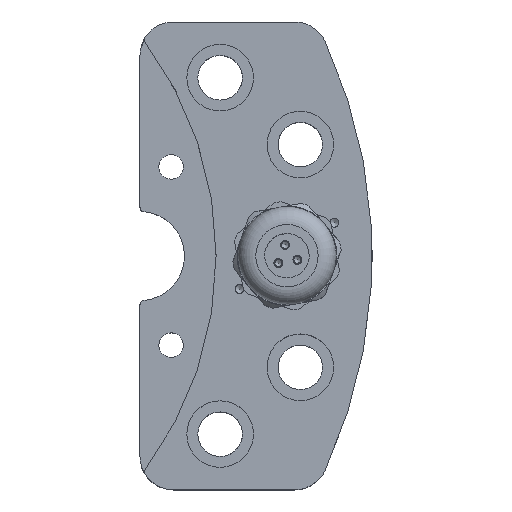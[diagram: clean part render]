
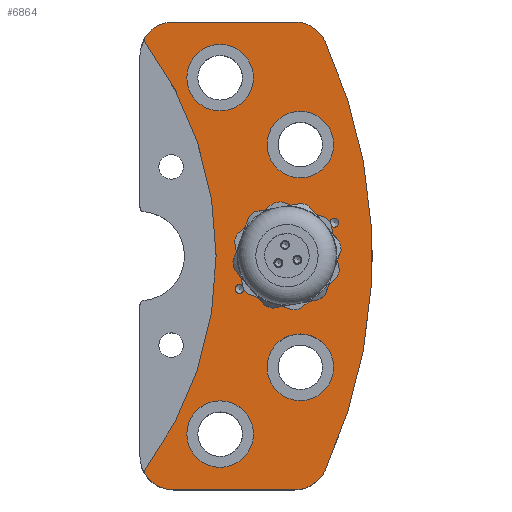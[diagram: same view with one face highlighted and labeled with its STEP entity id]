
A CAD part, top view. The second image highlights one B-rep face of the part: STEP entity #6864.
In plain terms, the highlighted planar face has unit normal (0, 0, 1).
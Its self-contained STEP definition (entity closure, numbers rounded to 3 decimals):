
#129=FACE_BOUND('',#1121,.T.);
#130=FACE_BOUND('',#1122,.T.);
#131=FACE_BOUND('',#1123,.T.);
#132=FACE_BOUND('',#1124,.T.);
#133=FACE_BOUND('',#1125,.T.);
#134=FACE_BOUND('',#1126,.T.);
#135=FACE_BOUND('',#1127,.T.);
#273=PLANE('',#7659);
#706=FACE_OUTER_BOUND('',#1120,.T.);
#1120=EDGE_LOOP('',(#5792,#5793,#5794,#5795,#5796,#5797,#5798,#5799,#5800,
#5801));
#1121=EDGE_LOOP('',(#5802,#5803));
#1122=EDGE_LOOP('',(#5804,#5805));
#1123=EDGE_LOOP('',(#5806,#5807));
#1124=EDGE_LOOP('',(#5808,#5809));
#1125=EDGE_LOOP('',(#5810,#5811));
#1126=EDGE_LOOP('',(#5812,#5813));
#1127=EDGE_LOOP('',(#5814));
#1583=CIRCLE('',#7623,1.007);
#1584=CIRCLE('',#7624,1.007);
#1587=CIRCLE('',#7629,1.007);
#1588=CIRCLE('',#7630,1.007);
#1606=CIRCLE('',#7657,9.55);
#1607=CIRCLE('',#7660,0.5);
#1608=CIRCLE('',#7661,7.5);
#1609=CIRCLE('',#7662,7.5);
#1610=CIRCLE('',#7663,115.1);
#1611=CIRCLE('',#7664,7.5);
#1612=CIRCLE('',#7665,7.5);
#1613=CIRCLE('',#7666,0.5);
#1614=CIRCLE('',#7667,80.1);
#1615=CIRCLE('',#7668,7.475);
#1616=CIRCLE('',#7669,7.475);
#1617=CIRCLE('',#7670,7.475);
#1618=CIRCLE('',#7671,7.475);
#1619=CIRCLE('',#7672,7.475);
#1620=CIRCLE('',#7673,7.475);
#1621=CIRCLE('',#7674,7.475);
#1622=CIRCLE('',#7675,7.475);
#2032=LINE('',#13065,#2436);
#2033=LINE('',#13073,#2437);
#2436=VECTOR('',#9597,10.);
#2437=VECTOR('',#9604,10.);
#3024=VERTEX_POINT('',#12981);
#3025=VERTEX_POINT('',#12982);
#3029=VERTEX_POINT('',#12994);
#3030=VERTEX_POINT('',#12995);
#3051=VERTEX_POINT('',#13053);
#3052=VERTEX_POINT('',#13059);
#3053=VERTEX_POINT('',#13060);
#3054=VERTEX_POINT('',#13062);
#3055=VERTEX_POINT('',#13064);
#3056=VERTEX_POINT('',#13066);
#3057=VERTEX_POINT('',#13068);
#3058=VERTEX_POINT('',#13070);
#3059=VERTEX_POINT('',#13072);
#3060=VERTEX_POINT('',#13074);
#3061=VERTEX_POINT('',#13076);
#3062=VERTEX_POINT('',#13079);
#3063=VERTEX_POINT('',#13080);
#3064=VERTEX_POINT('',#13083);
#3065=VERTEX_POINT('',#13084);
#3066=VERTEX_POINT('',#13087);
#3067=VERTEX_POINT('',#13088);
#3068=VERTEX_POINT('',#13091);
#3069=VERTEX_POINT('',#13092);
#3954=EDGE_CURVE('',#3024,#3025,#1583,.T.);
#3955=EDGE_CURVE('',#3025,#3024,#1584,.T.);
#3960=EDGE_CURVE('',#3029,#3030,#1587,.T.);
#3961=EDGE_CURVE('',#3030,#3029,#1588,.T.);
#3988=EDGE_CURVE('',#3051,#3051,#1606,.T.);
#3991=EDGE_CURVE('',#3052,#3053,#1607,.T.);
#3992=EDGE_CURVE('',#3054,#3052,#1608,.T.);
#3993=EDGE_CURVE('',#3055,#3054,#2032,.T.);
#3994=EDGE_CURVE('',#3056,#3055,#1609,.T.);
#3995=EDGE_CURVE('',#3057,#3056,#1610,.T.);
#3996=EDGE_CURVE('',#3058,#3057,#1611,.T.);
#3997=EDGE_CURVE('',#3059,#3058,#2033,.T.);
#3998=EDGE_CURVE('',#3060,#3059,#1612,.T.);
#3999=EDGE_CURVE('',#3061,#3060,#1613,.T.);
#4000=EDGE_CURVE('',#3061,#3053,#1614,.T.);
#4001=EDGE_CURVE('',#3062,#3063,#1615,.T.);
#4002=EDGE_CURVE('',#3063,#3062,#1616,.T.);
#4003=EDGE_CURVE('',#3064,#3065,#1617,.T.);
#4004=EDGE_CURVE('',#3065,#3064,#1618,.T.);
#4005=EDGE_CURVE('',#3066,#3067,#1619,.T.);
#4006=EDGE_CURVE('',#3067,#3066,#1620,.T.);
#4007=EDGE_CURVE('',#3068,#3069,#1621,.T.);
#4008=EDGE_CURVE('',#3069,#3068,#1622,.T.);
#5792=ORIENTED_EDGE('',*,*,#3991,.F.);
#5793=ORIENTED_EDGE('',*,*,#3992,.F.);
#5794=ORIENTED_EDGE('',*,*,#3993,.F.);
#5795=ORIENTED_EDGE('',*,*,#3994,.F.);
#5796=ORIENTED_EDGE('',*,*,#3995,.F.);
#5797=ORIENTED_EDGE('',*,*,#3996,.F.);
#5798=ORIENTED_EDGE('',*,*,#3997,.F.);
#5799=ORIENTED_EDGE('',*,*,#3998,.F.);
#5800=ORIENTED_EDGE('',*,*,#3999,.F.);
#5801=ORIENTED_EDGE('',*,*,#4000,.T.);
#5802=ORIENTED_EDGE('',*,*,#3954,.T.);
#5803=ORIENTED_EDGE('',*,*,#3955,.T.);
#5804=ORIENTED_EDGE('',*,*,#3960,.T.);
#5805=ORIENTED_EDGE('',*,*,#3961,.T.);
#5806=ORIENTED_EDGE('',*,*,#4001,.T.);
#5807=ORIENTED_EDGE('',*,*,#4002,.T.);
#5808=ORIENTED_EDGE('',*,*,#4003,.T.);
#5809=ORIENTED_EDGE('',*,*,#4004,.T.);
#5810=ORIENTED_EDGE('',*,*,#4005,.T.);
#5811=ORIENTED_EDGE('',*,*,#4006,.T.);
#5812=ORIENTED_EDGE('',*,*,#4007,.T.);
#5813=ORIENTED_EDGE('',*,*,#4008,.T.);
#5814=ORIENTED_EDGE('',*,*,#3988,.F.);
#6864=ADVANCED_FACE('',(#706,#129,#130,#131,#132,#133,#134,#135),#273,.T.);
#7623=AXIS2_PLACEMENT_3D('',#12983,#9506,#9507);
#7624=AXIS2_PLACEMENT_3D('',#12984,#9508,#9509);
#7629=AXIS2_PLACEMENT_3D('',#12996,#9520,#9521);
#7630=AXIS2_PLACEMENT_3D('',#12997,#9522,#9523);
#7657=AXIS2_PLACEMENT_3D('',#13054,#9585,#9586);
#7659=AXIS2_PLACEMENT_3D('',#13058,#9591,#9592);
#7660=AXIS2_PLACEMENT_3D('',#13061,#9593,#9594);
#7661=AXIS2_PLACEMENT_3D('',#13063,#9595,#9596);
#7662=AXIS2_PLACEMENT_3D('',#13067,#9598,#9599);
#7663=AXIS2_PLACEMENT_3D('',#13069,#9600,#9601);
#7664=AXIS2_PLACEMENT_3D('',#13071,#9602,#9603);
#7665=AXIS2_PLACEMENT_3D('',#13075,#9605,#9606);
#7666=AXIS2_PLACEMENT_3D('',#13077,#9607,#9608);
#7667=AXIS2_PLACEMENT_3D('',#13078,#9609,#9610);
#7668=AXIS2_PLACEMENT_3D('',#13081,#9611,#9612);
#7669=AXIS2_PLACEMENT_3D('',#13082,#9613,#9614);
#7670=AXIS2_PLACEMENT_3D('',#13085,#9615,#9616);
#7671=AXIS2_PLACEMENT_3D('',#13086,#9617,#9618);
#7672=AXIS2_PLACEMENT_3D('',#13089,#9619,#9620);
#7673=AXIS2_PLACEMENT_3D('',#13090,#9621,#9622);
#7674=AXIS2_PLACEMENT_3D('',#13093,#9623,#9624);
#7675=AXIS2_PLACEMENT_3D('',#13094,#9625,#9626);
#9506=DIRECTION('center_axis',(0.,0.,-1.));
#9507=DIRECTION('ref_axis',(1.,0.,0.));
#9508=DIRECTION('center_axis',(0.,0.,-1.));
#9509=DIRECTION('ref_axis',(1.,0.,0.));
#9520=DIRECTION('center_axis',(0.,0.,-1.));
#9521=DIRECTION('ref_axis',(1.,0.,0.));
#9522=DIRECTION('center_axis',(0.,0.,-1.));
#9523=DIRECTION('ref_axis',(1.,0.,0.));
#9585=DIRECTION('center_axis',(0.,0.,1.));
#9586=DIRECTION('ref_axis',(-1.,0.,0.));
#9591=DIRECTION('center_axis',(0.,0.,1.));
#9592=DIRECTION('ref_axis',(1.,0.,0.));
#9593=DIRECTION('center_axis',(0.,0.,-1.));
#9594=DIRECTION('ref_axis',(-0.998,0.065,0.));
#9595=DIRECTION('center_axis',(0.,0.,-1.));
#9596=DIRECTION('ref_axis',(-0.707,-0.707,0.));
#9597=DIRECTION('',(-1.,0.,0.));
#9598=DIRECTION('center_axis',(0.,0.,-1.));
#9599=DIRECTION('ref_axis',(0.539,-0.842,0.));
#9600=DIRECTION('center_axis',(0.,0.,-1.));
#9601=DIRECTION('ref_axis',(-0.89,0.456,0.));
#9602=DIRECTION('center_axis',(0.,0.,-1.));
#9603=DIRECTION('ref_axis',(0.539,0.842,0.));
#9604=DIRECTION('',(1.,0.,0.));
#9605=DIRECTION('center_axis',(0.,0.,-1.));
#9606=DIRECTION('ref_axis',(-0.707,0.707,0.));
#9607=DIRECTION('center_axis',(0.,0.,-1.));
#9608=DIRECTION('ref_axis',(-0.998,-0.065,0.));
#9609=DIRECTION('center_axis',(0.,0.,-1.));
#9610=DIRECTION('ref_axis',(0.787,-0.618,0.));
#9611=DIRECTION('center_axis',(0.,0.,-1.));
#9612=DIRECTION('ref_axis',(1.,0.,0.));
#9613=DIRECTION('center_axis',(0.,0.,-1.));
#9614=DIRECTION('ref_axis',(1.,0.,0.));
#9615=DIRECTION('center_axis',(0.,0.,-1.));
#9616=DIRECTION('ref_axis',(1.,0.,0.));
#9617=DIRECTION('center_axis',(0.,0.,-1.));
#9618=DIRECTION('ref_axis',(1.,0.,0.));
#9619=DIRECTION('center_axis',(0.,0.,-1.));
#9620=DIRECTION('ref_axis',(1.,0.,0.));
#9621=DIRECTION('center_axis',(0.,0.,-1.));
#9622=DIRECTION('ref_axis',(1.,0.,0.));
#9623=DIRECTION('center_axis',(0.,0.,-1.));
#9624=DIRECTION('ref_axis',(1.,0.,0.));
#9625=DIRECTION('center_axis',(0.,0.,-1.));
#9626=DIRECTION('ref_axis',(1.,0.,0.));
#12981=CARTESIAN_POINT('',(23.358,-7.456,27.));
#12982=CARTESIAN_POINT('',(21.345,-7.456,27.));
#12983=CARTESIAN_POINT('Origin',(22.351,-7.456,27.));
#12984=CARTESIAN_POINT('Origin',(22.351,-7.456,27.));
#12994=CARTESIAN_POINT('',(44.655,7.456,27.));
#12995=CARTESIAN_POINT('',(42.642,7.456,27.));
#12996=CARTESIAN_POINT('Origin',(43.649,7.456,27.));
#12997=CARTESIAN_POINT('Origin',(43.649,7.456,27.));
#13053=CARTESIAN_POINT('',(42.55,0.,27.));
#13054=CARTESIAN_POINT('Origin',(33.,0.,27.));
#13058=CARTESIAN_POINT('Origin',(22.806,0.,
27.));
#13059=CARTESIAN_POINT('',(0.976,-48.699,27.));
#13060=CARTESIAN_POINT('',(1.011,-48.152,27.));
#13061=CARTESIAN_POINT('Origin',(1.411,-48.452,27.));
#13062=CARTESIAN_POINT('',(7.5,-52.5,27.));
#13063=CARTESIAN_POINT('Origin',(7.5,-45.,27.));
#13064=CARTESIAN_POINT('',(34.738,-52.5,27.));
#13065=CARTESIAN_POINT('',(39.429,-52.5,27.));
#13066=CARTESIAN_POINT('',(41.551,-48.137,27.));
#13067=CARTESIAN_POINT('Origin',(34.738,-45.,27.));
#13068=CARTESIAN_POINT('',(41.551,48.137,27.));
#13069=CARTESIAN_POINT('Origin',(-63.,0.,27.));
#13070=CARTESIAN_POINT('',(34.738,52.5,27.));
#13071=CARTESIAN_POINT('Origin',(34.738,45.,27.));
#13072=CARTESIAN_POINT('',(7.5,52.5,27.));
#13073=CARTESIAN_POINT('',(0.,52.5,27.));
#13074=CARTESIAN_POINT('',(0.976,48.699,27.));
#13075=CARTESIAN_POINT('Origin',(7.5,45.,27.));
#13076=CARTESIAN_POINT('',(1.011,48.152,27.));
#13077=CARTESIAN_POINT('Origin',(1.411,48.452,27.));
#13078=CARTESIAN_POINT('Origin',(-63.,0.,27.));
#13079=CARTESIAN_POINT('',(25.475,-40.,27.));
#13080=CARTESIAN_POINT('',(10.525,-40.,27.));
#13081=CARTESIAN_POINT('Origin',(18.,-40.,27.));
#13082=CARTESIAN_POINT('Origin',(18.,-40.,27.));
#13083=CARTESIAN_POINT('',(43.475,-25.,27.));
#13084=CARTESIAN_POINT('',(28.525,-25.,27.));
#13085=CARTESIAN_POINT('Origin',(36.,-25.,27.));
#13086=CARTESIAN_POINT('Origin',(36.,-25.,27.));
#13087=CARTESIAN_POINT('',(43.475,25.,27.));
#13088=CARTESIAN_POINT('',(28.525,25.,27.));
#13089=CARTESIAN_POINT('Origin',(36.,25.,27.));
#13090=CARTESIAN_POINT('Origin',(36.,25.,27.));
#13091=CARTESIAN_POINT('',(25.475,40.,27.));
#13092=CARTESIAN_POINT('',(10.525,40.,27.));
#13093=CARTESIAN_POINT('Origin',(18.,40.,27.));
#13094=CARTESIAN_POINT('Origin',(18.,40.,27.));
